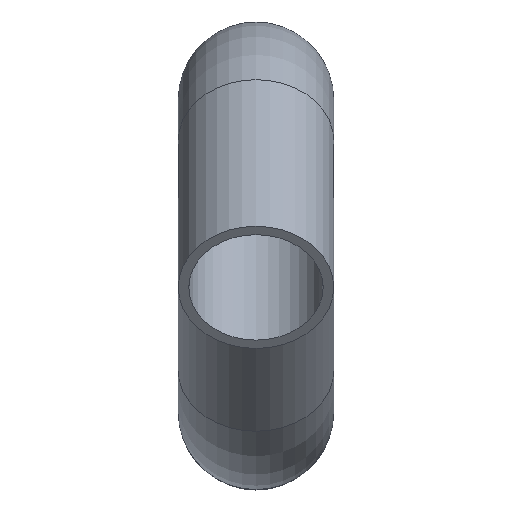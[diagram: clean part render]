
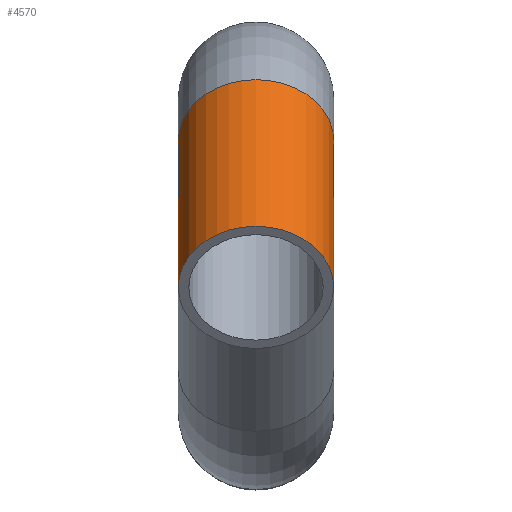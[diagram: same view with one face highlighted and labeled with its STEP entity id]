
A CAD part, top view. The second image highlights one B-rep face of the part: STEP entity #4570.
In plain terms, the highlighted cylindrical face has radius 11 mm (diameter 22 mm), a partial arc.
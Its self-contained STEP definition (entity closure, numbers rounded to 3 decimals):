
#2620=CARTESIAN_POINT('',(-23.742,92.074,129.753))
;
#2630=VERTEX_POINT('',#2620);
#2780=CARTESIAN_POINT('',(-1.742,92.074,129.753));
#2790=VERTEX_POINT('',#2780);
#2820=CARTESIAN_POINT('',(-12.742,92.074,129.753))
;
#2830=DIRECTION('',(0.,-0.62,0.784));
#2840=DIRECTION('',(1.,0.,0.));
#2850=AXIS2_PLACEMENT_3D('',#2820,#2830,#2840);
#2860=CIRCLE('',#2850,11.);
#2870=EDGE_CURVE('',#2790,#2630,#2860,.T.);
#3260=CARTESIAN_POINT('',(-12.742,92.074,129.753))
;
#3270=DIRECTION('',(0.,-0.62,0.784));
#3280=DIRECTION('',(1.,0.,0.));
#3290=AXIS2_PLACEMENT_3D('',#3260,#3270,#3280);
#3300=CYLINDRICAL_SURFACE('',#3290,11.);
#3310=CARTESIAN_POINT('',(-1.742,92.074,129.753));
#3320=DIRECTION('',(0.,-0.62,0.784));
#3330=VECTOR('',#3320,1.);
#3340=LINE('',#3310,#3330);
#3350=CARTESIAN_POINT('',(-1.742,71.288,156.024));
#3360=VERTEX_POINT('',#3350);
#3370=EDGE_CURVE('',#2790,#3360,#3340,.T.);
#3410=CARTESIAN_POINT('',(-23.742,92.074,129.753))
;
#3420=DIRECTION('',(0.,-0.62,0.784));
#3430=VECTOR('',#3420,1.);
#3440=LINE('',#3410,#3430);
#3450=CARTESIAN_POINT('',(-23.742,71.288,156.024));
#3460=VERTEX_POINT('',#3450);
#3470=EDGE_CURVE('',#2630,#3460,#3440,.T.);
#3490=CARTESIAN_POINT('',(-12.742,71.288,156.024));
#3500=DIRECTION('',(0.,-0.62,0.784));
#3510=DIRECTION('',(1.,0.,0.));
#3520=AXIS2_PLACEMENT_3D('',#3490,#3500,#3510);
#3530=CIRCLE('',#3520,11.);
#3640=EDGE_CURVE('',#3360,#3460,#3530,.T.);
#4510=ORIENTED_EDGE('',*,*,#3370,.F.);
#4520=ORIENTED_EDGE('',*,*,#3640,.F.);
#4530=ORIENTED_EDGE('',*,*,#3470,.T.);
#4540=ORIENTED_EDGE('',*,*,#2870,.T.);
#4550=EDGE_LOOP('',(#4540,#4530,#4520,#4510));
#4560=FACE_OUTER_BOUND('',#4550,.T.);
#4570=ADVANCED_FACE('',(#4560),#3300,.T.);
